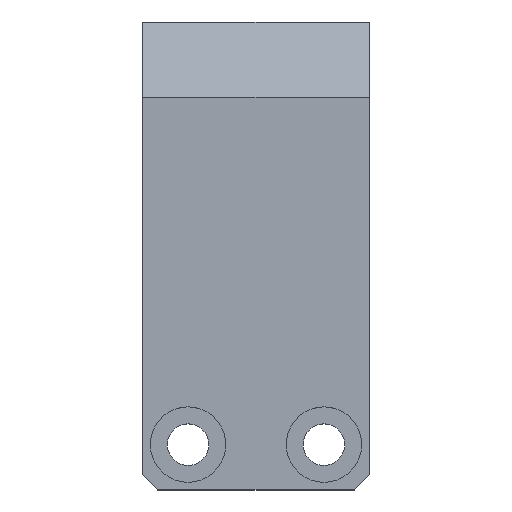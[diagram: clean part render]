
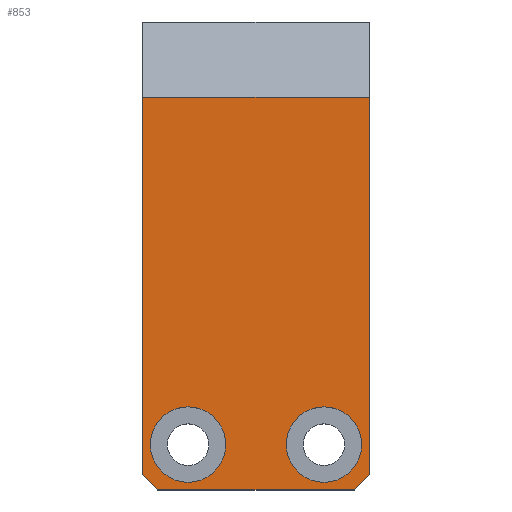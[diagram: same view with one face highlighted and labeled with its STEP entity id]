
A CAD part, top view. The second image highlights one B-rep face of the part: STEP entity #853.
In plain terms, the highlighted planar face has unit normal (0, 0, 1).
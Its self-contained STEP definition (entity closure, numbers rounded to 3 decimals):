
#514=AXIS2_PLACEMENT_3D('Circle Axis2P3D',#512,#513,$) ;
#540=AXIS2_PLACEMENT_3D('Circle Axis2P3D',#538,#539,$) ;
#585=AXIS2_PLACEMENT_3D('Circle Axis2P3D',#583,#584,$) ;
#611=AXIS2_PLACEMENT_3D('Circle Axis2P3D',#609,#610,$) ;
#830=AXIS2_PLACEMENT_3D('Plane Axis2P3D',#827,#828,#829) ;
#43=CARTESIAN_POINT('Vertex',(15.,-10.,0.)) ;
#57=CARTESIAN_POINT('Vertex',(-15.,-10.,0.)) ;
#60=CARTESIAN_POINT('Line Origine',(0.,-10.,0.)) ;
#507=CARTESIAN_POINT('Vertex',(-4.,-56.,0.)) ;
#512=CARTESIAN_POINT('Axis2P3D Location',(-9.,-56.,0.)) ;
#516=CARTESIAN_POINT('Vertex',(-14.,-56.,0.)) ;
#538=CARTESIAN_POINT('Axis2P3D Location',(-9.,-56.,0.)) ;
#578=CARTESIAN_POINT('Vertex',(14.,-56.,0.)) ;
#583=CARTESIAN_POINT('Axis2P3D Location',(9.,-56.,0.)) ;
#587=CARTESIAN_POINT('Vertex',(4.,-56.,0.)) ;
#609=CARTESIAN_POINT('Axis2P3D Location',(9.,-56.,0.)) ;
#640=CARTESIAN_POINT('Line Origine',(-15.,-35.,0.)) ;
#644=CARTESIAN_POINT('Vertex',(-15.,-60.,0.)) ;
#699=CARTESIAN_POINT('Vertex',(-13.,-62.,0.)) ;
#702=CARTESIAN_POINT('Line Origine',(-14.,-61.,0.)) ;
#723=CARTESIAN_POINT('Vertex',(15.,-60.,0.)) ;
#733=CARTESIAN_POINT('Line Origine',(15.,-35.,0.)) ;
#767=CARTESIAN_POINT('Line Origine',(0.,-62.,0.)) ;
#771=CARTESIAN_POINT('Vertex',(13.,-62.,0.)) ;
#827=CARTESIAN_POINT('Axis2P3D Location',(15.,-55.,0.)) ;
#832=CARTESIAN_POINT('Line Origine',(14.,-61.,0.)) ;
#61=DIRECTION('Vector Direction',(-1.,0.,0.)) ;
#513=DIRECTION('Axis2P3D Direction',(-0.,0.,1.)) ;
#539=DIRECTION('Axis2P3D Direction',(-0.,0.,1.)) ;
#584=DIRECTION('Axis2P3D Direction',(-0.,0.,1.)) ;
#610=DIRECTION('Axis2P3D Direction',(-0.,0.,1.)) ;
#641=DIRECTION('Vector Direction',(0.,-1.,0.)) ;
#703=DIRECTION('Vector Direction',(0.707,-0.707,0.)) ;
#734=DIRECTION('Vector Direction',(0.,1.,0.)) ;
#768=DIRECTION('Vector Direction',(-1.,0.,0.)) ;
#828=DIRECTION('Axis2P3D Direction',(0.,0.,-1.)) ;
#829=DIRECTION('Axis2P3D XDirection',(-1.,0.,-0.)) ;
#833=DIRECTION('Vector Direction',(-0.707,-0.707,0.)) ;
#62=VECTOR('Line Direction',#61,1.) ;
#642=VECTOR('Line Direction',#641,1.) ;
#704=VECTOR('Line Direction',#703,1.) ;
#735=VECTOR('Line Direction',#734,1.) ;
#769=VECTOR('Line Direction',#768,1.) ;
#834=VECTOR('Line Direction',#833,1.) ;
#838=ORIENTED_EDGE('',*,*,#836,.F.) ;
#839=ORIENTED_EDGE('',*,*,#737,.T.) ;
#840=ORIENTED_EDGE('',*,*,#64,.T.) ;
#841=ORIENTED_EDGE('',*,*,#646,.T.) ;
#842=ORIENTED_EDGE('',*,*,#706,.F.) ;
#843=ORIENTED_EDGE('',*,*,#773,.T.) ;
#846=ORIENTED_EDGE('',*,*,#542,.F.) ;
#847=ORIENTED_EDGE('',*,*,#518,.F.) ;
#850=ORIENTED_EDGE('',*,*,#613,.F.) ;
#851=ORIENTED_EDGE('',*,*,#589,.F.) ;
#848=FACE_BOUND('',#845,.T.) ;
#852=FACE_BOUND('',#849,.T.) ;
#853=ADVANCED_FACE('\X2\501289D2\X0\5',(#844,#848,#852),#831,.F.) ;
#515=CIRCLE('generated circle',#514,5.) ;
#541=CIRCLE('generated circle',#540,5.) ;
#586=CIRCLE('generated circle',#585,5.) ;
#612=CIRCLE('generated circle',#611,5.) ;
#64=EDGE_CURVE('',#44,#58,#63,.T.) ;
#518=EDGE_CURVE('',#508,#517,#515,.T.) ;
#542=EDGE_CURVE('',#517,#508,#541,.T.) ;
#589=EDGE_CURVE('',#579,#588,#586,.T.) ;
#613=EDGE_CURVE('',#588,#579,#612,.T.) ;
#646=EDGE_CURVE('',#58,#645,#643,.T.) ;
#706=EDGE_CURVE('',#700,#645,#705,.F.) ;
#737=EDGE_CURVE('',#724,#44,#736,.T.) ;
#773=EDGE_CURVE('',#700,#772,#770,.F.) ;
#836=EDGE_CURVE('',#724,#772,#835,.T.) ;
#837=EDGE_LOOP('',(#838,#839,#840,#841,#842,#843)) ;
#845=EDGE_LOOP('',(#846,#847)) ;
#849=EDGE_LOOP('',(#850,#851)) ;
#844=FACE_OUTER_BOUND('',#837,.T.) ;
#63=LINE('Line',#60,#62) ;
#643=LINE('Line',#640,#642) ;
#705=LINE('Line',#702,#704) ;
#736=LINE('Line',#733,#735) ;
#770=LINE('Line',#767,#769) ;
#835=LINE('Line',#832,#834) ;
#831=PLANE('',#830) ;
#44=VERTEX_POINT('',#43) ;
#58=VERTEX_POINT('',#57) ;
#508=VERTEX_POINT('',#507) ;
#517=VERTEX_POINT('',#516) ;
#579=VERTEX_POINT('',#578) ;
#588=VERTEX_POINT('',#587) ;
#645=VERTEX_POINT('',#644) ;
#700=VERTEX_POINT('',#699) ;
#724=VERTEX_POINT('',#723) ;
#772=VERTEX_POINT('',#771) ;
